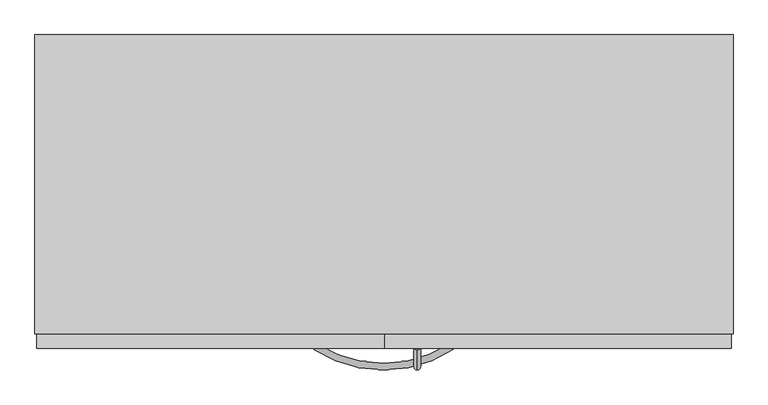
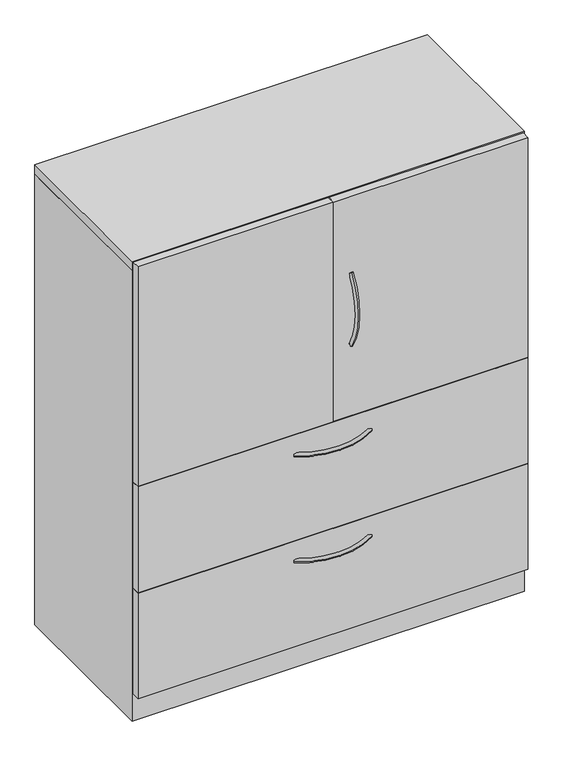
"""IFC4 building model written with IfcOpenShell, lengths in millimetres: furniture geometry, Steelcase - Universal Storage - Cabinet - Combination - Proud Steel : 52H - Hinged Doors/2 Drawers - 18 7/8D x 42W."""

import ifcopenshell
import ifcopenshell.guid

model = None  # the IFC model being written
_history = None  # IfcOwnerHistory: only IFC2X3 demands one
_inside = {}  # id of a spatial element -> (the spatial element, [elements in it])
_under = {}  # id of a project, library or spatial element -> (it, [spatial elements below it])
_declared = {}  # id of a project -> (the project, [libraries it declares])
_typed = {}  # id of a type object -> (the type object, [elements of that type])
_made_of = {}  # id of a material, layer set ... -> (it, [elements and type objects made of it])


def new_model(schema):
    """Start an empty IFC model of exactly this schema.

    Asked for "IFC4X3", IfcOpenShell would pick the latest addendum, in which some entities
    have other attributes; the version numbers below select the first issue.
    IFC2X3 requires an IfcOwnerHistory on every rooted entity: one is made here for all.
    """
    global model, _history
    if schema == "IFC4X3":
        model = ifcopenshell.file(schema_version=(4, 3, 0, 0))
    else:
        model = ifcopenshell.file(schema=schema)
    _inside.clear()
    _under.clear()
    _declared.clear()
    _typed.clear()
    _made_of.clear()
    _history = None
    if model.schema == "IFC2X3":
        org = make("IfcOrganization", Name="unknown")
        user = make(
            "IfcPersonAndOrganization",
            ThePerson=make("IfcPerson", FamilyName="unknown"),
            TheOrganization=org,
        )
        app = make(
            "IfcApplication",
            ApplicationDeveloper=org,
            Version="unknown",
            ApplicationFullName="unknown",
            ApplicationIdentifier="unknown",
        )
        _history = make(
            "IfcOwnerHistory",
            OwningUser=user,
            OwningApplication=app,
            ChangeAction="ADDED",
            CreationDate=0,
        )
    return model


def make(cls, **values):
    """One entity of the class cls with the attributes given. An attribute that is None is left unset."""
    return model.create_entity(
        cls, **{name: value for name, value in values.items() if value is not None}
    )


def rooted(cls, **values):
    """An entity with a GlobalId (a new one), such as an element, a storey or a relation."""
    return make(cls, GlobalId=ifcopenshell.guid.new(), OwnerHistory=_history, **values)


def si_unit(unit_type, name, prefix=None):
    """IfcSIUnit, for example si_unit("LENGTHUNIT", "METRE", prefix="MILLI")."""
    return make("IfcSIUnit", UnitType=unit_type, Prefix=prefix, Name=name)


def assignment(units):
    """IfcUnitAssignment: the units of a project."""
    return None if units is None else make("IfcUnitAssignment", Units=units)


def point(xyz):
    """IfcCartesianPoint."""
    return None if xyz is None else make("IfcCartesianPoint", Coordinates=xyz)


def direction(xyz):
    """IfcDirection."""
    return None if xyz is None else make("IfcDirection", DirectionRatios=xyz)


def frame(location, z_axis=None, x_axis=None):
    """IfcAxis2Placement3D, a coordinate frame: its origin and axes. An axis left out is left unset."""
    return make(
        "IfcAxis2Placement3D",
        Location=point(location),
        Axis=direction(z_axis),
        RefDirection=direction(x_axis),
    )


def origin():
    """The frame at (0, 0, 0) with its axes left unset."""
    return frame((0.0, 0.0, 0.0))


def place(relative_to, where):
    """IfcLocalPlacement: puts the frame where relative to a parent placement (None: the world)."""
    return make(
        "IfcLocalPlacement", PlacementRelTo=relative_to, RelativePlacement=where
    )


def context(
    kind, dimensions, precision=None, world=None, true_north=None, identifier=None
):
    """IfcGeometricRepresentationContext, for example the 3D "Model" context."""
    return make(
        "IfcGeometricRepresentationContext",
        ContextIdentifier=identifier,
        ContextType=kind,
        CoordinateSpaceDimension=dimensions,
        Precision=precision,
        WorldCoordinateSystem=world,
        TrueNorth=true_north,
    )


def project(units=None, contexts=None):
    """IfcProject with its units and contexts."""
    return rooted(
        "IfcProject",
        Name="project",
        RepresentationContexts=contexts,
        UnitsInContext=assignment(units),
    )


def spatial(cls, under=None, at=None, **own):
    """A site, building, storey or space (cls), placed at a placement, below another one or the project."""
    s = rooted(cls, ObjectPlacement=at, **own)
    if under is not None:
        _under.setdefault(under.id(), (under, []))[1].append(s)
    return s


def polyline(points):
    """IfcPolyline through the points."""
    return make("IfcPolyline", Points=[point(p) for p in points])


def circle_curve(where, radius):
    """IfcCircle in the frame where."""
    return make("IfcCircle", Position=where, Radius=radius)


def ellipse_curve(where, semi_axis1, semi_axis2):
    """IfcEllipse in the frame where."""
    return make(
        "IfcEllipse", Position=where, SemiAxis1=semi_axis1, SemiAxis2=semi_axis2
    )


def trimmed(basis, trim1, trim2, sense, master):
    """IfcTrimmedCurve: the piece of a basis curve between two trims."""
    return make(
        "IfcTrimmedCurve",
        BasisCurve=basis,
        Trim1=trim1,
        Trim2=trim2,
        SenseAgreement=sense,
        MasterRepresentation=master,
    )


def outline(outer, holes=None, kind="AREA"):
    """IfcArbitraryClosedProfileDef: a profile drawn as a closed curve; with holes, ...WithVoids."""
    if holes is None:
        return make("IfcArbitraryClosedProfileDef", ProfileType=kind, OuterCurve=outer)
    return make(
        "IfcArbitraryProfileDefWithVoids",
        ProfileType=kind,
        OuterCurve=outer,
        InnerCurves=holes,
    )


def extrude(swept, where, along, depth):
    """IfcExtrudedAreaSolid: the profile swept, set in the frame where, extruded along a direction by depth."""
    return make(
        "IfcExtrudedAreaSolid",
        SweptArea=swept,
        Position=where,
        ExtrudedDirection=direction(along),
        Depth=depth,
    )


def faces_of(points, faces, orient=None, outer=None):
    """IfcFace entities. A face is a list of loops; a loop is a list of indices into points, from 0.

    orient and outer hold one flag for each loop. By default every Orientation is true, the
    first loop of a face is its IfcFaceOuterBound and the others are IfcFaceBound.
    """
    made = []
    for i, loops in enumerate(faces):
        bounds = []
        for j, loop in enumerate(loops):
            is_outer = j == 0 if outer is None else outer[i][j]
            bounds.append(
                make(
                    "IfcFaceOuterBound" if is_outer else "IfcFaceBound",
                    Bound=make("IfcPolyLoop", Polygon=[points[k] for k in loop]),
                    Orientation=True if orient is None else orient[i][j],
                )
            )
        made.append(make("IfcFace", Bounds=bounds))
    return made


def faceted_brep(points, faces, orient=None, outer=None, voids=None):
    """IfcFacetedBrep: a solid bounded by flat faces; with voids (closed shells), ...WithVoids."""
    shared = [point(p) for p in points]
    hull = make("IfcClosedShell", CfsFaces=faces_of(shared, faces, orient, outer))
    if voids is None:
        return make("IfcFacetedBrep", Outer=hull)
    return make(
        "IfcFacetedBrepWithVoids",
        Outer=hull,
        Voids=[
            make(cls, CfsFaces=faces_of(shared, fs, o, b)) for cls, fs, o, b in voids
        ],
    )


def shape(context_of_items, identifier, shape_type, items):
    """IfcShapeRepresentation: the items that make up one representation, for example the "Body"."""
    return make(
        "IfcShapeRepresentation",
        ContextOfItems=context_of_items,
        RepresentationIdentifier=identifier,
        RepresentationType=shape_type,
        Items=items,
    )


def source(mapping_origin, context_of_items, identifier, shape_type, items):
    """IfcRepresentationMap: a shape defined once, which mapped items show again and again."""
    return make(
        "IfcRepresentationMap",
        MappingOrigin=mapping_origin,
        MappedRepresentation=shape(context_of_items, identifier, shape_type, items),
    )


def transform(
    local_origin,
    x_axis=None,
    y_axis=None,
    z_axis=None,
    scale=None,
    scale2=None,
    scale3=None,
    uniform=True,
):
    """IfcCartesianTransformationOperator3D, or its non-uniform kind. x_axis, y_axis, z_axis: its Axis1, 2, 3."""
    if uniform:
        return make(
            "IfcCartesianTransformationOperator3D",
            Axis1=direction(x_axis),
            Axis2=direction(y_axis),
            LocalOrigin=point(local_origin),
            Scale=scale,
            Axis3=direction(z_axis),
        )
    return make(
        "IfcCartesianTransformationOperator3DnonUniform",
        Axis1=direction(x_axis),
        Axis2=direction(y_axis),
        LocalOrigin=point(local_origin),
        Scale=scale,
        Axis3=direction(z_axis),
        Scale2=scale2,
        Scale3=scale3,
    )


def mapped(mapping_source, mapping_target):
    """IfcMappedItem: shows the shape of a source again, moved by a transform."""
    return make(
        "IfcMappedItem", MappingSource=mapping_source, MappingTarget=mapping_target
    )


def made_of(thing, what):
    """Note that an element or type object is made of a material, layer set ...; save() writes the relation."""
    if what is not None:
        _made_of.setdefault(what.id(), (what, []))[1].append(thing)
    return thing


def element(
    cls,
    number,
    at=None,
    inside=None,
    cuts=None,
    type_object=None,
    material=None,
    context=None,
    identifier="Body",
    shape_type=None,
    held_by="IfcProductDefinitionShape",
    body=None,
    shapes=None,
    **own,
):
    """One element of the class cls, such as IfcWall. Its Tag is "e" and its number.

    at: its placement. inside: the storey or other place that contains it. cuts: it is an
    opening in that element (IfcRelVoidsElement). A single representation is given by context,
    identifier, shape_type and body (its items); several are given by shapes. held_by: the class
    of the entity that holds the representations. save() writes the other relations.
    """
    e = rooted(cls, Tag="e%d" % number, ObjectPlacement=at, **own)
    if body is not None:
        shapes = [shape(context, identifier, shape_type, body)]
    if shapes is not None:
        e.Representation = make(held_by, Representations=shapes)
    if inside is not None:
        _inside.setdefault(inside.id(), (inside, []))[1].append(e)
    if cuts is not None:
        rooted(
            "IfcRelVoidsElement", RelatingBuildingElement=cuts, RelatedOpeningElement=e
        )
    if type_object is not None:
        _typed.setdefault(type_object.id(), (type_object, []))[1].append(e)
    return made_of(e, material)


def aggregate(whole, parts):
    """IfcRelAggregates: a whole, such as a stair, and the parts it consists of."""
    return rooted("IfcRelAggregates", RelatingObject=whole, RelatedObjects=parts)


def save(model, path):
    """Write the relations noted so far, then the file.

    IfcRelAggregates (storeys below a building ...), IfcRelContainedInSpatialStructure (elements
    in a storey), IfcRelDefinesByType, IfcRelAssociatesMaterial and IfcRelDeclares: one each for
    every whole, place, type object, material and project.
    """
    for whole, parts in _under.values():
        aggregate(whole, parts)
    for where, things in _inside.values():
        rooted(
            "IfcRelContainedInSpatialStructure",
            RelatedElements=things,
            RelatingStructure=where,
        )
    for kind, things in _typed.values():
        rooted("IfcRelDefinesByType", RelatedObjects=things, RelatingType=kind)
    for what, things in _made_of.values():
        rooted("IfcRelAssociatesMaterial", RelatedObjects=things, RelatingMaterial=what)
    for by, libraries in _declared.values():
        rooted("IfcRelDeclares", RelatingContext=by, RelatedDefinitions=libraries)
    model.write(path)


def plane_surface(at):
    """IfcPlane: the flat surface through the origin of the frame at, square to its z axis."""
    return make("IfcPlane", Position=at)


def revolved_surface(curve, axis_point, axis_direction):
    """IfcSurfaceOfRevolution: the curve turned about the line through axis_point along axis_direction."""
    return make(
        "IfcSurfaceOfRevolution",
        SweptCurve=make("IfcArbitraryOpenProfileDef", ProfileType="CURVE", Curve=curve),
        AxisPosition=make("IfcAxis1Placement", Location=point(axis_point), Axis=direction(axis_direction)),
    )


def advanced_brep(points, edges, surfaces, faces):
    """IfcAdvancedBrep: a solid bounded by faces that lie on surfaces and meet in shared edges.

    An edge is (start, end): straight between two places in points (the first is 0);
    or (start, end, curve); or (start, end, curve, False) where it runs against its curve.
    A face is (place in surfaces, loops), or (place, loops, False) where it looks against
    its surface's normal. A loop lists edges by number (the first is 1), with a minus sign
    where the edge is run from its end to its start. The first loop is the outer one.
    """
    corners = [point(p) for p in points]
    vertices = [make("IfcVertexPoint", VertexGeometry=c) for c in corners]
    made = []
    for start, end, *more in edges:
        made.append(
            make(
                "IfcEdgeCurve",
                EdgeStart=vertices[start],
                EdgeEnd=vertices[end],
                EdgeGeometry=more[0] if more else make("IfcPolyline", Points=[corners[start], corners[end]]),
                SameSense=more[1] if len(more) > 1 else True,
            )
        )
    hull = []
    for where, loops, *sense in faces:
        bounds = []
        for j, loop in enumerate(loops):
            ring = [make("IfcOrientedEdge", EdgeElement=made[abs(k) - 1], Orientation=k > 0) for k in loop]
            bounds.append(
                make(
                    "IfcFaceOuterBound" if j == 0 else "IfcFaceBound",
                    Bound=make("IfcEdgeLoop", EdgeList=ring),
                    Orientation=True,
                )
            )
        hull.append(make("IfcAdvancedFace", Bounds=bounds, FaceSurface=surfaces[where], SameSense=sense[0] if sense else True))
    return make("IfcAdvancedBrep", Outer=make("IfcClosedShell", CfsFaces=hull))


def furniture_9585b589(model_context):
    return source(origin(), model_context, "Body", "SolidModel", [
        extrude(outline(polyline([(1063.6225413, -479.552), (3.1725353, -479.552), (3.1725353, -457.3261219), (1063.6225413, -457.3261219), (1063.6225413, -479.552)])), frame((0.0, 0.0, 77.724), z_axis=(0.0, 0.0, 1.0), x_axis=(1.0, 0.0, 0.0)), (0.0, 0.0, 1.0), 303.276),
        extrude(outline(polyline([(1063.6225413, -479.552), (3.1725353, -479.552), (3.1725353, -457.3261219), (1063.6225413, -457.3261219), (1063.6225413, -479.552)])), frame((0.0, 0.0, 382.524), z_axis=(0.0, 0.0, 1.0), x_axis=(1.0, 0.0, 0.0)), (0.0, 0.0, 1.0), 303.276),
        extrude(outline(polyline([(533.4, -479.552), (3.1725353, -479.552), (3.1725353, -457.3261219), (533.4, -457.3261219), (533.4, -479.552)])), frame((0.0, 0.0, 687.7062596), z_axis=(0.0, 0.0, 1.0), x_axis=(1.0, 0.0, 0.0)), (0.0, 0.0, 1.0), 629.92),
        extrude(outline(polyline([(1063.6225413, -479.552), (534.9239992, -479.552), (534.9239992, -457.3261219), (1063.6225413, -457.3261219), (1063.6225413, -479.552)])), frame((0.0, 0.0, 687.7062596), z_axis=(0.0, 0.0, 1.0), x_axis=(1.0, 0.0, 0.0)), (0.0, 0.0, 1.0), 629.92),
        advanced_brep(
        [(584.1682496, -481.5705994, 1099.843666), (584.1682496, -473.0108019, 1094.3705073), (584.1682496, -481.1337636, 887.5367456), (584.1682496, -472.5965612, 893.0450825)],
        [
            (0, 1, circle_curve(frame((584.1682496, -477.2907007, 1097.1070866), z_axis=(0.0, 0.5386967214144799, 0.842499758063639), x_axis=(0.0, 0.842499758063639, -0.5386967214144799)), 5.08)),
            (1, 0, circle_curve(frame((584.1682496, -477.2907007, 1097.1070866), z_axis=(0.0, 0.5386967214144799, 0.842499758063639), x_axis=(0.0, 0.842499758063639, -0.5386967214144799)), 5.08)),
            (2, 3, circle_curve(frame((584.1682496, -476.8651624, 890.2909141), z_axis=(0.0, 0.5421591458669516, -0.8402758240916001), x_axis=(0.0, 0.8402758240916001, 0.5421591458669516)), 5.08)),
            (3, 2, circle_curve(frame((584.1682496, -476.8651624, 890.2909141), z_axis=(0.0, 0.5421591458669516, -0.8402758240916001), x_axis=(0.0, 0.8402758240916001, 0.5421591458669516)), 5.08)),
            (3, 1, circle_curve(frame((584.1682496, -316.0827352, 994.0302589), z_axis=(-1.0, 0.0, 0.0), x_axis=(0.0, -0.8424997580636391, 0.5386967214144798)), 186.2648211)),
            (0, 2, circle_curve(frame((584.1682496, -316.0827352, 994.0302589), z_axis=(1.0, 0.0, 0.0), x_axis=(0.0, -0.8424997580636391, 0.5386967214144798)), 196.4248211)),
        ],
        [
            plane_surface(frame((584.9619996, -476.6365286, 1096.6888072), z_axis=(0.0, 0.5386967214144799, 0.8424997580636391), x_axis=(1.0, 0.0, 0.0))),
            plane_surface(frame((584.9619996, -476.2127171, 890.711882), z_axis=(0.0, 0.5421591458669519, -0.8402758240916), x_axis=(1.0, 0.0, 0.0))),
            revolved_surface(trimmed(ellipse_curve(frame((584.1682496, -477.2907007, 1097.1070866), z_axis=(0.0, 0.5386967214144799, 0.842499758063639), x_axis=(0.0, 0.842499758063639, -0.5386967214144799)), 5.08, 5.08), [point((584.1682496, -481.5705994, 1099.843666))], [point((584.1682496, -473.0108019, 1094.3705073))], True, "CARTESIAN"), (584.9619996, -316.0827352, 994.0302589), (1.0, 0.0, 0.0)),
            revolved_surface(trimmed(ellipse_curve(frame((584.1682496, -477.2907007, 1097.1070866), z_axis=(0.0, 0.5386967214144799, 0.842499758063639), x_axis=(0.0, 0.842499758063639, -0.5386967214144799)), 5.08, 5.08), [point((584.1682496, -473.0108019, 1094.3705073))], [point((584.1682496, -481.5705994, 1099.843666))], True, "CARTESIAN"), (584.9619996, -316.0827352, 994.0302589), (1.0, 0.0, 0.0)),
        ],
        [
            (0, [[1, 2]]),
            (1, [[3, 4]]),
            (2, [[5, -1, 6, -4]]),
            (3, [[-6, -2, -5, -3]]),
        ],
    ),
        advanced_brep(
        [(426.8245932, -481.5705994, 323.56425), (432.2977519, -473.0108019, 323.56425), (639.1315136, -481.1337636, 323.56425), (633.6231767, -472.5965612, 323.56425)],
        [
            (0, 1, circle_curve(frame((429.5611726, -477.2907007, 323.56425), z_axis=(-0.8424997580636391, 0.5386967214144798, 0.0), x_axis=(0.5386967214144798, 0.8424997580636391, 0.0)), 5.08)),
            (1, 0, circle_curve(frame((429.5611726, -477.2907007, 323.56425), z_axis=(-0.8424997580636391, 0.5386967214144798, 0.0), x_axis=(0.5386967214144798, 0.8424997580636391, 0.0)), 5.08)),
            (2, 3, circle_curve(frame((636.3773452, -476.8651624, 323.56425), z_axis=(0.8402758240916, 0.5421591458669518, 0.0), x_axis=(-0.5421591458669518, 0.8402758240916, 0.0)), 5.08)),
            (3, 2, circle_curve(frame((636.3773452, -476.8651624, 323.56425), z_axis=(0.8402758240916, 0.5421591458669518, 0.0), x_axis=(-0.5421591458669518, 0.8402758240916, 0.0)), 5.08)),
            (3, 1, circle_curve(frame((532.6380004, -316.0827352, 323.56425), z_axis=(0.0, 0.0, -1.0), x_axis=(-0.5386967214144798, -0.8424997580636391, 0.0)), 186.2648211)),
            (0, 2, circle_curve(frame((532.6380004, -316.0827352, 323.56425), z_axis=(0.0, 0.0, 1.0), x_axis=(-0.5386967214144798, -0.8424997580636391, 0.0)), 196.4248211)),
        ],
        [
            plane_surface(frame((429.9794521, -476.6365286, 324.358), z_axis=(-0.8424997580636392, 0.5386967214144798, 0.0), x_axis=(0.0, 0.0, 1.0))),
            plane_surface(frame((635.9563772, -476.2127171, 324.358), z_axis=(0.8402758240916, 0.5421591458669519, 0.0), x_axis=(0.0, 0.0, 1.0))),
            revolved_surface(trimmed(ellipse_curve(frame((429.5611726, -477.2907007, 323.56425), z_axis=(-0.8424997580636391, 0.5386967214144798, 0.0), x_axis=(0.5386967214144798, 0.8424997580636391, 0.0)), 5.08, 5.08), [point((426.8245932, -481.5705994, 323.56425))], [point((432.2977519, -473.0108019, 323.56425))], True, "CARTESIAN"), (532.6380004, -316.0827352, 324.358), (0.0, 0.0, 1.0)),
            revolved_surface(trimmed(ellipse_curve(frame((429.5611726, -477.2907007, 323.56425), z_axis=(-0.8424997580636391, 0.5386967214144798, 0.0), x_axis=(0.5386967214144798, 0.8424997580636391, 0.0)), 5.08, 5.08), [point((432.2977519, -473.0108019, 323.56425))], [point((426.8245932, -481.5705994, 323.56425))], True, "CARTESIAN"), (532.6380004, -316.0827352, 324.358), (0.0, 0.0, 1.0)),
        ],
        [
            (0, [[1, 2]]),
            (1, [[3, 4]]),
            (2, [[5, -1, 6, -4]]),
            (3, [[-6, -2, -5, -3]]),
        ],
    ),
        advanced_brep(
        [(426.8245932, -481.5705994, 627.85625), (432.2977519, -473.0108019, 627.85625), (639.1315136, -481.1337636, 627.85625), (633.6231767, -472.5965612, 627.85625)],
        [
            (0, 1, circle_curve(frame((429.5611726, -477.2907007, 627.85625), z_axis=(-0.8424997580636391, 0.5386967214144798, 0.0), x_axis=(0.5386967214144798, 0.8424997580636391, 0.0)), 5.08)),
            (1, 0, circle_curve(frame((429.5611726, -477.2907007, 627.85625), z_axis=(-0.8424997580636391, 0.5386967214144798, 0.0), x_axis=(0.5386967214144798, 0.8424997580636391, 0.0)), 5.08)),
            (2, 3, circle_curve(frame((636.3773452, -476.8651624, 627.85625), z_axis=(0.8402758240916, 0.5421591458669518, 0.0), x_axis=(-0.5421591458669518, 0.8402758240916, 0.0)), 5.08)),
            (3, 2, circle_curve(frame((636.3773452, -476.8651624, 627.85625), z_axis=(0.8402758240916, 0.5421591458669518, 0.0), x_axis=(-0.5421591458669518, 0.8402758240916, 0.0)), 5.08)),
            (3, 1, circle_curve(frame((532.6380004, -316.0827352, 627.85625), z_axis=(0.0, 0.0, -1.0), x_axis=(-0.5386967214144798, -0.8424997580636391, 0.0)), 186.2648211)),
            (0, 2, circle_curve(frame((532.6380004, -316.0827352, 627.85625), z_axis=(0.0, 0.0, 1.0), x_axis=(-0.5386967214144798, -0.8424997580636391, 0.0)), 196.4248211)),
        ],
        [
            plane_surface(frame((429.9794521, -476.6365286, 628.65), z_axis=(-0.8424997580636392, 0.5386967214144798, 0.0), x_axis=(0.0, 0.0, 1.0))),
            plane_surface(frame((635.9563772, -476.2127171, 628.65), z_axis=(0.8402758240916, 0.5421591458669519, 0.0), x_axis=(0.0, 0.0, 1.0))),
            revolved_surface(trimmed(ellipse_curve(frame((429.5611726, -477.2907007, 627.85625), z_axis=(-0.8424997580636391, 0.5386967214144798, 0.0), x_axis=(0.5386967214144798, 0.8424997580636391, 0.0)), 5.08, 5.08), [point((426.8245932, -481.5705994, 627.85625))], [point((432.2977519, -473.0108019, 627.85625))], True, "CARTESIAN"), (532.6380004, -316.0827352, 628.65), (0.0, 0.0, 1.0)),
            revolved_surface(trimmed(ellipse_curve(frame((429.5611726, -477.2907007, 627.85625), z_axis=(-0.8424997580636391, 0.5386967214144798, 0.0), x_axis=(0.5386967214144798, 0.8424997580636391, 0.0)), 5.08, 5.08), [point((432.2977519, -473.0108019, 627.85625))], [point((426.8245932, -481.5705994, 627.85625))], True, "CARTESIAN"), (532.6380004, -316.0827352, 628.65), (0.0, 0.0, 1.0)),
        ],
        [
            (0, [[1, 2]]),
            (1, [[3, 4]]),
            (2, [[5, -1, 6, -4]]),
            (3, [[-6, -2, -5, -3]]),
        ],
    ),
        faceted_brep([(25.4000008, -457.3261219, 76.2), (1041.4000242, -457.3261219, 76.2), (1041.4000242, -25.4000008, 76.2), (25.4000008, -25.4000008, 76.2), (1066.8, 0.0, 0.0), (1066.8, -457.3261219, 0.0), (0.0, -457.3261219, 0.0), (0.0, 0.0, 0.0), (0.0, 0.0, 1293.876), (1066.8, 0.0, 1293.876), (0.0, -457.3261219, 1293.876), (1066.8, -457.3261219, 1293.876), (1041.4000242, -457.3261219, 1293.876), (25.4000008, -457.3261219, 1293.876), (1041.4000242, -25.4000008, 1293.876), (25.4000008, -25.4000008, 1293.876)], [[[0, 1, 2, 3]], [[4, 5, 6, 7]], [[4, 7, 8, 9]], [[8, 7, 6, 10]], [[10, 6, 5, 11, 12, 1, 0, 13]], [[11, 5, 4, 9]], [[14, 12, 11, 9, 8, 10, 13, 15]], [[12, 14, 2, 1]], [[15, 13, 0, 3]], [[14, 15, 3, 2]]]),
        extrude(outline(polyline([(1066.8, 0.0), (1066.8, -457.3261219), (0.0, -457.3261219), (0.0, 0.0), (1066.8, 0.0)])), frame((0.0, 0.0, 1295.3999516), z_axis=(0.0, 0.0, 1.0), x_axis=(1.0, 0.0, 0.0)), (0.0, 0.0, 1.0), 25.4000484),
    ])


if __name__ == "__main__":
    model = new_model("IFC4")
    model_context = context("Model", 3, world=origin())
    ifc_project = project(units=[si_unit("LENGTHUNIT", "METRE", prefix="MILLI")], contexts=[model_context])
    site = spatial("IfcSite", under=ifc_project)
    building = spatial("IfcBuilding", under=site)
    placement = place(None, origin())
    furniture_shape = furniture_9585b589(model_context)
    element("IfcFurniture", 1, ObjectType="Steelcase - Universal Storage - Cabinet - Combination - Proud Steel : 52H - Hinged Doors/2 Drawers - 18 7/8D x 42W", at=placement, inside=building, context=model_context, shape_type="MappedRepresentation", body=[
        mapped(furniture_shape, transform((0.0, 0.0, 0.0), x_axis=(1.0, 0.0, 0.0), y_axis=(0.0, 1.0, 0.0), z_axis=(0.0, 0.0, 1.0))),
    ])
    save(model, "model.ifc")
